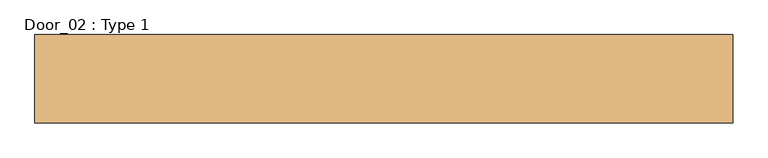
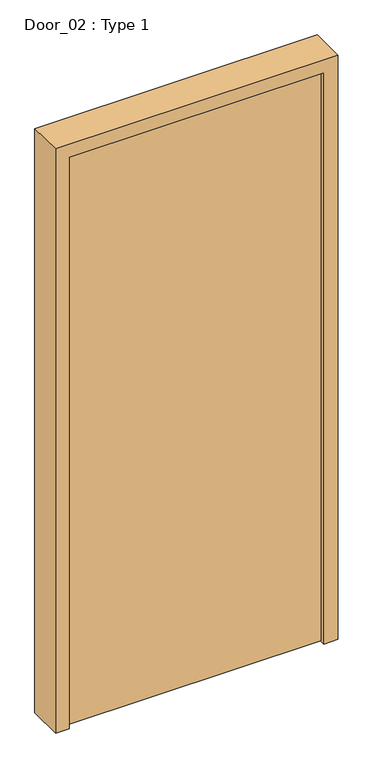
"""IFC4 building model written with IfcOpenShell, lengths in millimetres: door geometry, Door_02 : Type 1."""

from ifc_helpers import new_model, si_unit, frame, origin, origin_with_axes, place, context, project, spatial, polyline, outline, extrude, source, transform, mapped, element, save


def door_02_type_1_7ad4ace3(model_context):
    return source(origin(), model_context, "Body", "SweptSolid", [
        extrude(outline(polyline([(465.0, 230.0), (465.0, 150.0), (-465.0, 150.0), (-465.0, 230.0), (465.0, 230.0)])), origin_with_axes(), (0.0, 0.0, 1.0), 2200.0),
        extrude(outline(polyline([(2250.0, -515.0), (0.0, -515.0), (0.0, -465.0), (2200.0, -465.0), (2200.0, 465.0), (0.0, 465.0), (0.0, 515.0), (2250.0, 515.0), (2250.0, -515.0)])), frame((0.0, 130.0, 0.0), z_axis=(0.0, 1.0, 0.0), x_axis=(0.0, 0.0, 1.0)), (0.0, 0.0, 1.0), 130.0),
    ])


if __name__ == "__main__":
    model = new_model("IFC4")
    model_context = context("Model", 3, world=origin())
    ifc_project = project(units=[si_unit("LENGTHUNIT", "METRE", prefix="MILLI")], contexts=[model_context])
    site = spatial("IfcSite", under=ifc_project)
    building = spatial("IfcBuilding", under=site)
    placement = place(None, origin())
    door_02_type_1_shape = door_02_type_1_7ad4ace3(model_context)
    element("IfcDoor", 1, ObjectType="Door_02 : Type 1", at=placement, inside=building, context=model_context, shape_type="MappedRepresentation", body=[
        mapped(door_02_type_1_shape, transform((0.0, 0.0, 0.0), x_axis=(1.0, 0.0, 0.0), y_axis=(0.0, 1.0, 0.0), z_axis=(0.0, 0.0, 1.0))),
    ])
    save(model, "model.ifc")
